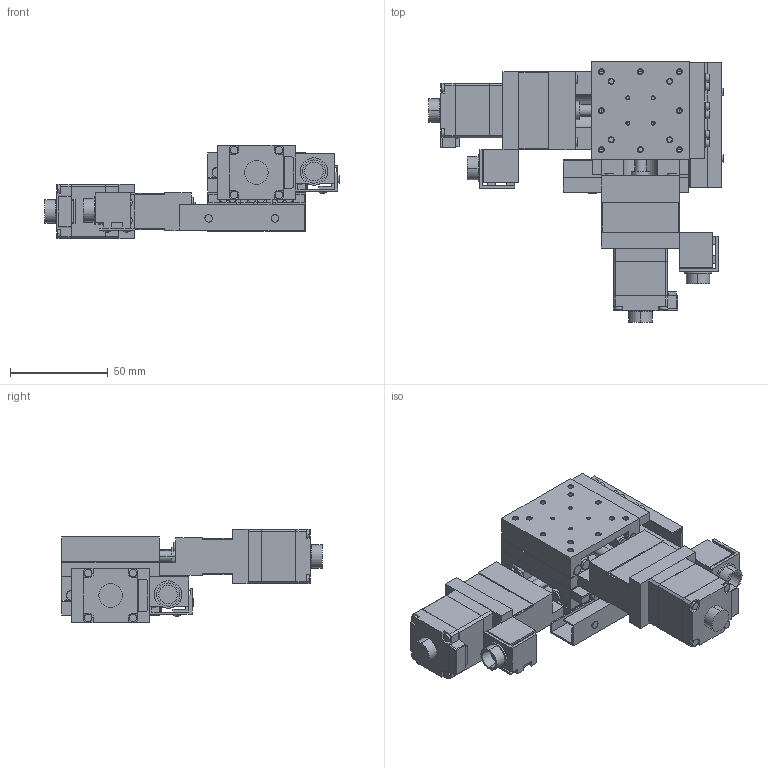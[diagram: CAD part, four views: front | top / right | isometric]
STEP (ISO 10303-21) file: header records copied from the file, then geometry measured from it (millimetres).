
FILE_DESCRIPTION(('STEP AP203'),'1');
FILE_NAME('C:/3D-Trans/3D_PMG513M-L□-E+240122.step','2024-03-14T05:36:39',(' '),(' '),'Spatial InterOp 3D',' ',' ');
FILE_SCHEMA(('CONFIG_CONTROL_DESIGN'));
Length unit declared in the file: millimetre
Products named in the file (12): 1; 2; 3; 4; 5; 6; 7; 8; 9; 10; 11; 12
Bounding box: 150.9 x 133.5 x 48 mm (x, y, z)
Volume: 191874.4 mm3; surface area: 92116.4 mm2
Topology: 12 solids, 12 shells, 1366 faces, 3522 edges, 2228 vertices
Faces by surface type: plane 794, cylinder 412, cone 152, sphere 8
Entity records: 41806 total; most frequent: DIRECTION 7322, CARTESIAN_POINT 7144, ORIENTED_EDGE 6948, EDGE_CURVE 3474, AXIS2_PLACEMENT_3D 2486, LINE 2350, VECTOR 2350, VERTEX_POINT 2228
